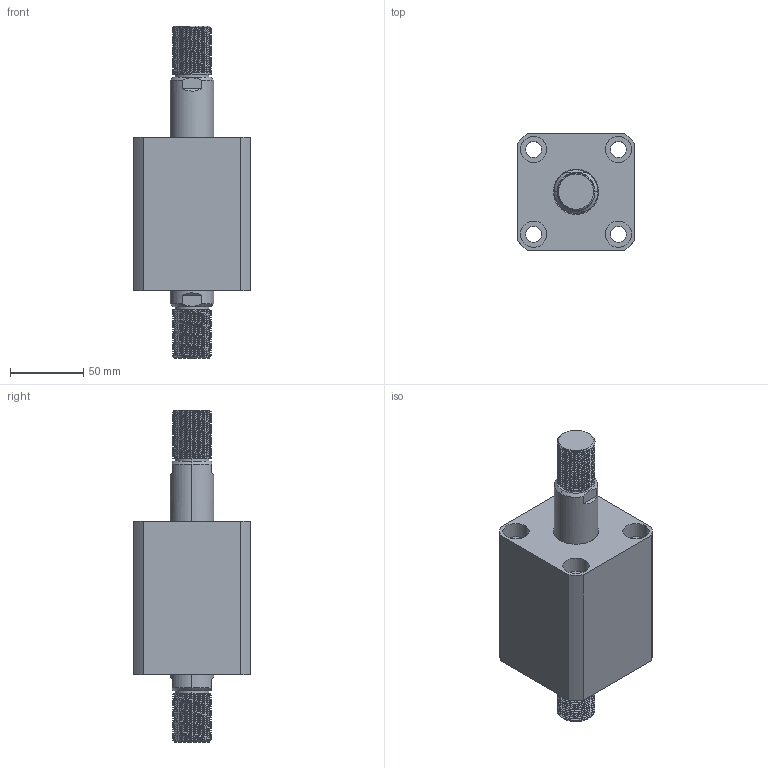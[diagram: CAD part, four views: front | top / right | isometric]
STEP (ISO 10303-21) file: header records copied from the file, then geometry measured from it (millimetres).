
FILE_DESCRIPTION (( 'STEP AP203' ), '1' );
FILE_NAME ('CHTB-SW50-30W.STEP', '2018-05-21T05:55:22', ( '' ), ( '' ), 'SwSTEP 2.0', 'SolidWorks 2015', '' );
FILE_SCHEMA (( 'CONFIG_CONTROL_DESIGN' ));
Length unit declared in the file: millimetre
Products named in the file (4): 活塞杆SW50-30W; ヶ裔; CHTB-SW50-30W; 掛极SW50-30W
Assembly tree (3 placements, depth 2):
  CHTB-SW50-30W
    掛极SW50-30W
    活塞杆SW50-30W
    ヶ裔
Bounding box: 80 x 80 x 227 mm (x, y, z)
Volume: 633697.9 mm3; surface area: 121765.2 mm2
Topology: 3 solids, 3 shells, 314 faces, 794 edges, 514 vertices
Faces by surface type: cylinder 202, plane 51, cone 29, torus 24, bspline 8
Entity records: 17377 total; most frequent: CARTESIAN_POINT 10049, ORIENTED_EDGE 1580, DIRECTION 1358, EDGE_CURVE 790, AXIS2_PLACEMENT_3D 549, VERTEX_POINT 514, EDGE_LOOP 362, ADVANCED_FACE 314
